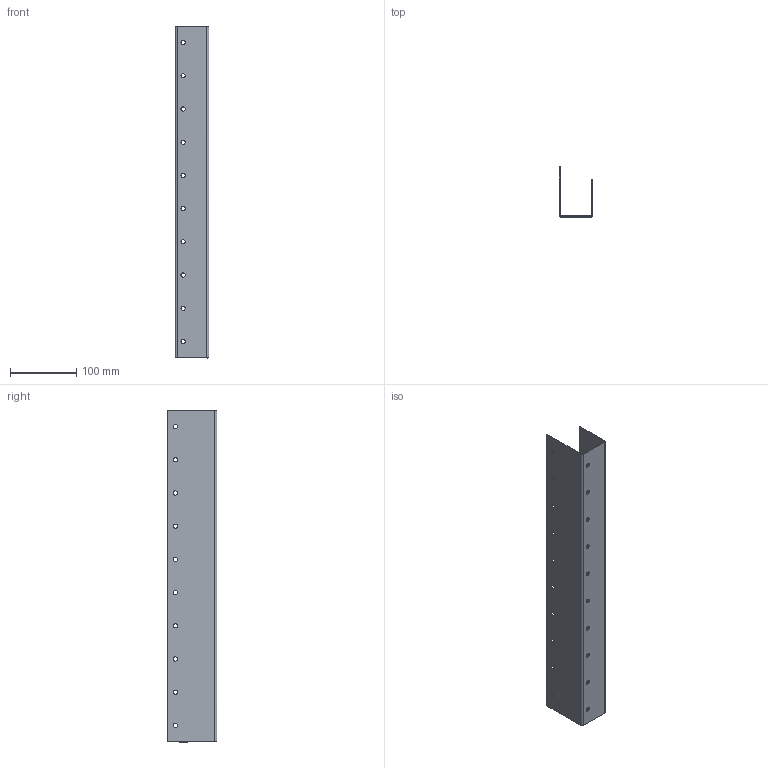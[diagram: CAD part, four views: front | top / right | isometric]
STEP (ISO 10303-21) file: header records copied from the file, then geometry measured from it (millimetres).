
FILE_DESCRIPTION(( 'STEP AP203 file generated by I-DEAS Master Series'),'2;1');
FILE_NAME('D:\a00506\p-hct3.stp','2001-10-09T15:23:42',('A00506'),( 'unspecified'),'I-DEAS Master Series 7m2 : Design', 'I-DEAS Master Series 7m2 : Design','unspecified');
FILE_SCHEMA(('CONFIG_CONTROL_DESIGN'));
Length unit declared in the file: millimetre
Bounding box: 50.8 x 75.01 x 500 mm (x, y, z)
Volume: 122790.8 mm3; surface area: 178244.1 mm2
Topology: 1 solids, 1 shells, 42 faces, 104 edges, 64 vertices
Faces by surface type: bspline 42
Entity records: 1611 total; most frequent: CARTESIAN_POINT 856, ORIENTED_EDGE 208, EDGE_CURVE 104, EDGE_LOOP 82, VERTEX_POINT 64, QUASI_UNIFORM_CURVE 48, FACE_OUTER_BOUND 42, ADVANCED_FACE 42
